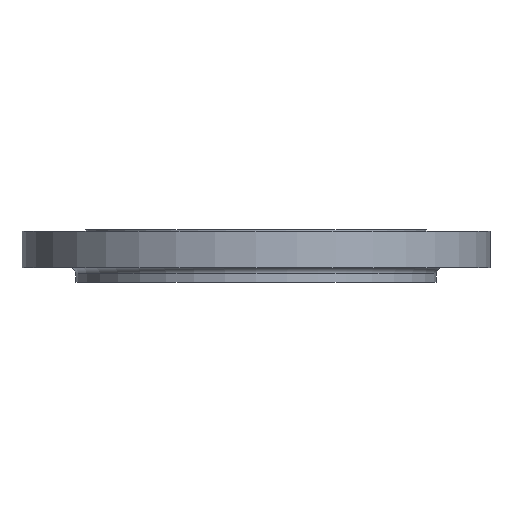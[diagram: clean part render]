
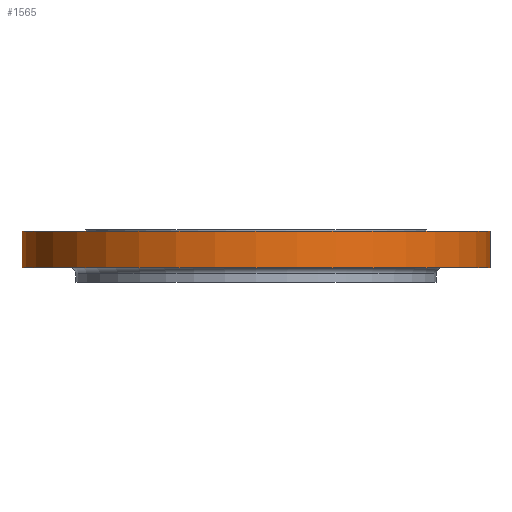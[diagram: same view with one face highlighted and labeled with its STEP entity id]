
A CAD part, front view. The second image highlights one B-rep face of the part: STEP entity #1565.
In plain terms, the highlighted cylindrical face has radius 445 mm (diameter 890 mm), a partial arc.
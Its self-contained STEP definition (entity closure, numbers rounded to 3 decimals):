
#67 = DIRECTION ( 'NONE',  ( 1., 0., 0. ) ) ;
#68 = DIRECTION ( 'NONE',  ( 0., 0., 1. ) ) ;
#70 = CARTESIAN_POINT ( 'NONE',  ( 0., 0., -72. ) ) ;
#73 = DIRECTION ( 'NONE',  ( 1., 0., 0. ) ) ;
#76 = DIRECTION ( 'NONE',  ( 0., 0., 1. ) ) ;
#79 = CARTESIAN_POINT ( 'NONE',  ( 0., 0., -150. ) ) ;
#80 = CYLINDRICAL_SURFACE ( 'NONE', #1039, 445. ) ;
#81 = FACE_OUTER_BOUND ( 'NONE', #1370, .T. ) ;
#191 = DIRECTION ( 'NONE',  ( 0., 0., 1. ) ) ;
#194 = CARTESIAN_POINT ( 'NONE',  ( 445., 0., -150. ) ) ;
#195 = LINE ( 'NONE', #194, #1898 ) ;
#249 = EDGE_CURVE ( 'NONE', #1761, #936, #523, .T. ) ;
#457 = CARTESIAN_POINT ( 'NONE',  ( -445., 0., -3. ) ) ;
#521 = DIRECTION ( 'NONE',  ( 0., 0., 1. ) ) ;
#522 = CARTESIAN_POINT ( 'NONE',  ( -445., 0., -150. ) ) ;
#523 = CIRCLE ( 'NONE', #559, 445. ) ;
#524 = LINE ( 'NONE', #522, #1489 ) ;
#559 = AXIS2_PLACEMENT_3D ( 'NONE', #750, #749, #748 ) ;
#748 = DIRECTION ( 'NONE',  ( -1., 0., 0. ) ) ;
#749 = DIRECTION ( 'NONE',  ( 0., 0., -1. ) ) ;
#750 = CARTESIAN_POINT ( 'NONE',  ( 0., 0., -3. ) ) ;
#780 = CARTESIAN_POINT ( 'NONE',  ( 445., 0., -72. ) ) ;
#799 = EDGE_CURVE ( 'NONE', #1767, #936, #524, .T. ) ;
#936 = VERTEX_POINT ( 'NONE', #457 ) ;
#1035 = CIRCLE ( 'NONE', #1190, 445. ) ;
#1039 = AXIS2_PLACEMENT_3D ( 'NONE', #79, #76, #73 ) ;
#1190 = AXIS2_PLACEMENT_3D ( 'NONE', #70, #68, #67 ) ;
#1356 = ORIENTED_EDGE ( 'NONE', *, *, #249, .T. ) ;
#1370 = EDGE_LOOP ( 'NONE', ( #1385, #1376, #1381, #1356 ) ) ;
#1376 = ORIENTED_EDGE ( 'NONE', *, *, #1566, .T. ) ;
#1381 = ORIENTED_EDGE ( 'NONE', *, *, #1471, .T. ) ;
#1385 = ORIENTED_EDGE ( 'NONE', *, *, #799, .F. ) ;
#1471 = EDGE_CURVE ( 'NONE', #1774, #1761, #195, .T. ) ;
#1489 = VECTOR ( 'NONE', #521, 1000. ) ;
#1514 = CARTESIAN_POINT ( 'NONE',  ( 445., 0., -3. ) ) ;
#1565 = ADVANCED_FACE ( 'NONE', ( #81 ), #80, .T. ) ;
#1566 = EDGE_CURVE ( 'NONE', #1767, #1774, #1035, .T. ) ;
#1761 = VERTEX_POINT ( 'NONE', #1514 ) ;
#1767 = VERTEX_POINT ( 'NONE', #1959 ) ;
#1774 = VERTEX_POINT ( 'NONE', #780 ) ;
#1898 = VECTOR ( 'NONE', #191, 1000. ) ;
#1959 = CARTESIAN_POINT ( 'NONE',  ( -445., 0., -72. ) ) ;
